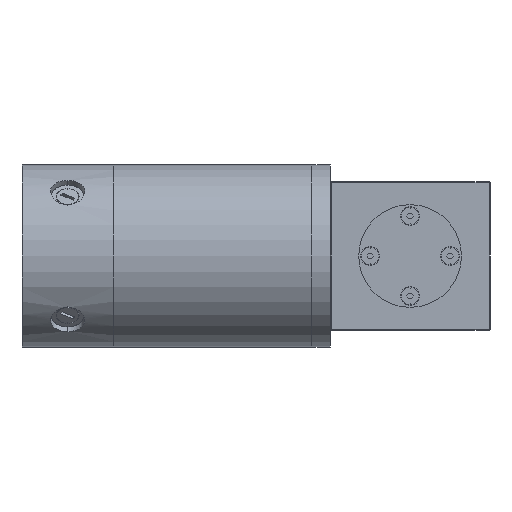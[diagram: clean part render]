
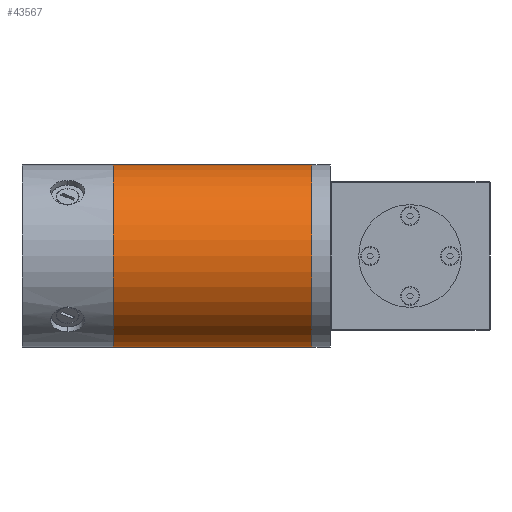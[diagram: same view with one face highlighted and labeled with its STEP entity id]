
A CAD part, left-side view. The second image highlights one B-rep face of the part: STEP entity #43567.
In plain terms, the highlighted cylindrical face has radius 50.8 mm (diameter 101.6 mm), a partial arc.
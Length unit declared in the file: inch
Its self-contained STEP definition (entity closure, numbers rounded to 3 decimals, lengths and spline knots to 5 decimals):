
#1307 = CARTESIAN_POINT ( 'NONE',  ( 7.41726, 4.26131, 0.88268 ) ) ;
#3003 = DIRECTION ( 'NONE',  ( 0., -1., 0. ) ) ;
#4390 = EDGE_CURVE ( 'NONE', #53701, #30563, #32191, .T. ) ;
#7850 = DIRECTION ( 'NONE',  ( 0., 0., 1. ) ) ;
#12302 = VECTOR ( 'NONE', #29384, 39.37008 ) ;
#12732 = ORIENTED_EDGE ( 'NONE', *, *, #50660, .T. ) ;
#12755 = CARTESIAN_POINT ( 'NONE',  ( 7.41726, 14.26817, 2.88268 ) ) ;
#16605 = CARTESIAN_POINT ( 'NONE',  ( 7.41726, 14.26817, 0.88268 ) ) ;
#18824 = AXIS2_PLACEMENT_3D ( 'NONE', #19831, #37572, #28682 ) ;
#19831 = CARTESIAN_POINT ( 'NONE',  ( 7.41726, 8.61131, 2.88268 ) ) ;
#22255 = CARTESIAN_POINT ( 'NONE',  ( 7.41726, 8.61131, 4.88268 ) ) ;
#22484 = FACE_OUTER_BOUND ( 'NONE', #37060, .T. ) ;
#22503 = VERTEX_POINT ( 'NONE', #54297 ) ;
#23087 = AXIS2_PLACEMENT_3D ( 'NONE', #12755, #35456, #7850 ) ;
#27509 = AXIS2_PLACEMENT_3D ( 'NONE', #54444, #32703, #55005 ) ;
#28682 = DIRECTION ( 'NONE',  ( 0., 0., 1. ) ) ;
#29384 = DIRECTION ( 'NONE',  ( 0., -1., 0. ) ) ;
#30492 = CIRCLE ( 'NONE', #18824, 2. ) ;
#30563 = VERTEX_POINT ( 'NONE', #31743 ) ;
#31113 = ORIENTED_EDGE ( 'NONE', *, *, #55439, .F. ) ;
#31743 = CARTESIAN_POINT ( 'NONE',  ( 7.41726, 4.26131, 4.88268 ) ) ;
#32191 = CIRCLE ( 'NONE', #27509, 2. ) ;
#32703 = DIRECTION ( 'NONE',  ( 0., 1., 0. ) ) ;
#33402 = CARTESIAN_POINT ( 'NONE',  ( 7.41726, 14.26817, 4.88268 ) ) ;
#35456 = DIRECTION ( 'NONE',  ( 0., -1., 0. ) ) ;
#36299 = LINE ( 'NONE', #33402, #12302 ) ;
#37060 = EDGE_LOOP ( 'NONE', ( #48738, #12732, #47982, #31113 ) ) ;
#37572 = DIRECTION ( 'NONE',  ( 0., -1., 0. ) ) ;
#38538 = LINE ( 'NONE', #16605, #57545 ) ;
#39989 = EDGE_CURVE ( 'NONE', #53107, #22503, #30492, .T. ) ;
#43567 = ADVANCED_FACE ( 'NONE', ( #22484 ), #44970, .T. ) ;
#44970 = CYLINDRICAL_SURFACE ( 'NONE', #23087, 2. ) ;
#47982 = ORIENTED_EDGE ( 'NONE', *, *, #4390, .T. ) ;
#48738 = ORIENTED_EDGE ( 'NONE', *, *, #39989, .T. ) ;
#50660 = EDGE_CURVE ( 'NONE', #22503, #53701, #38538, .T. ) ;
#53107 = VERTEX_POINT ( 'NONE', #22255 ) ;
#53701 = VERTEX_POINT ( 'NONE', #1307 ) ;
#54297 = CARTESIAN_POINT ( 'NONE',  ( 7.41726, 8.61131, 0.88268 ) ) ;
#54444 = CARTESIAN_POINT ( 'NONE',  ( 7.41726, 4.26131, 2.88268 ) ) ;
#55005 = DIRECTION ( 'NONE',  ( 0., 0., -1. ) ) ;
#55439 = EDGE_CURVE ( 'NONE', #53107, #30563, #36299, .T. ) ;
#57545 = VECTOR ( 'NONE', #3003, 39.37008 ) ;
